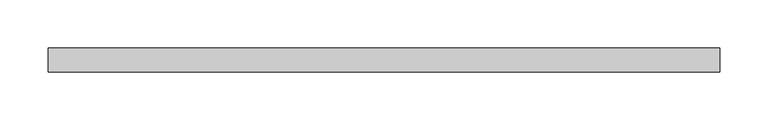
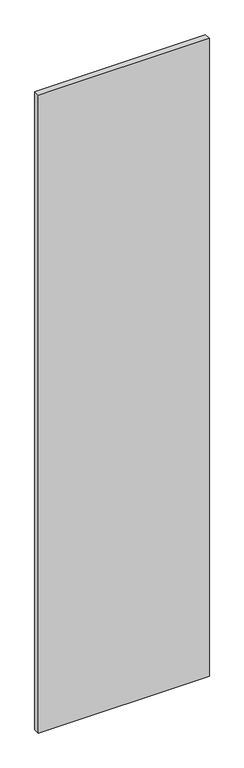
"""IFC4 building model written with IfcOpenShell, lengths in millimetres: plate geometry, 系统嵌板 : 玻璃."""

import ifcopenshell
import ifcopenshell.guid

model = None  # the IFC model being written
_history = None  # IfcOwnerHistory: only IFC2X3 demands one
_inside = {}  # id of a spatial element -> (the spatial element, [elements in it])
_under = {}  # id of a project, library or spatial element -> (it, [spatial elements below it])
_declared = {}  # id of a project -> (the project, [libraries it declares])
_typed = {}  # id of a type object -> (the type object, [elements of that type])
_made_of = {}  # id of a material, layer set ... -> (it, [elements and type objects made of it])


def new_model(schema):
    """Start an empty IFC model of exactly this schema.

    Asked for "IFC4X3", IfcOpenShell would pick the latest addendum, in which some entities
    have other attributes; the version numbers below select the first issue.
    IFC2X3 requires an IfcOwnerHistory on every rooted entity: one is made here for all.
    """
    global model, _history
    if schema == "IFC4X3":
        model = ifcopenshell.file(schema_version=(4, 3, 0, 0))
    else:
        model = ifcopenshell.file(schema=schema)
    _inside.clear()
    _under.clear()
    _declared.clear()
    _typed.clear()
    _made_of.clear()
    _history = None
    if model.schema == "IFC2X3":
        org = make("IfcOrganization", Name="unknown")
        user = make(
            "IfcPersonAndOrganization",
            ThePerson=make("IfcPerson", FamilyName="unknown"),
            TheOrganization=org,
        )
        app = make(
            "IfcApplication",
            ApplicationDeveloper=org,
            Version="unknown",
            ApplicationFullName="unknown",
            ApplicationIdentifier="unknown",
        )
        _history = make(
            "IfcOwnerHistory",
            OwningUser=user,
            OwningApplication=app,
            ChangeAction="ADDED",
            CreationDate=0,
        )
    return model


def make(cls, **values):
    """One entity of the class cls with the attributes given. An attribute that is None is left unset."""
    return model.create_entity(
        cls, **{name: value for name, value in values.items() if value is not None}
    )


def rooted(cls, **values):
    """An entity with a GlobalId (a new one), such as an element, a storey or a relation."""
    return make(cls, GlobalId=ifcopenshell.guid.new(), OwnerHistory=_history, **values)


def si_unit(unit_type, name, prefix=None):
    """IfcSIUnit, for example si_unit("LENGTHUNIT", "METRE", prefix="MILLI")."""
    return make("IfcSIUnit", UnitType=unit_type, Prefix=prefix, Name=name)


def assignment(units):
    """IfcUnitAssignment: the units of a project."""
    return None if units is None else make("IfcUnitAssignment", Units=units)


def point(xyz):
    """IfcCartesianPoint."""
    return None if xyz is None else make("IfcCartesianPoint", Coordinates=xyz)


def direction(xyz):
    """IfcDirection."""
    return None if xyz is None else make("IfcDirection", DirectionRatios=xyz)


def frame(location, z_axis=None, x_axis=None):
    """IfcAxis2Placement3D, a coordinate frame: its origin and axes. An axis left out is left unset."""
    return make(
        "IfcAxis2Placement3D",
        Location=point(location),
        Axis=direction(z_axis),
        RefDirection=direction(x_axis),
    )


def origin():
    """The frame at (0, 0, 0) with its axes left unset."""
    return frame((0.0, 0.0, 0.0))


def origin_with_axes():
    """The frame at (0, 0, 0) with the z axis (0, 0, 1) and the x axis (1, 0, 0) written out."""
    return frame((0.0, 0.0, 0.0), z_axis=(0.0, 0.0, 1.0), x_axis=(1.0, 0.0, 0.0))


def place(relative_to, where):
    """IfcLocalPlacement: puts the frame where relative to a parent placement (None: the world)."""
    return make(
        "IfcLocalPlacement", PlacementRelTo=relative_to, RelativePlacement=where
    )


def context(
    kind, dimensions, precision=None, world=None, true_north=None, identifier=None
):
    """IfcGeometricRepresentationContext, for example the 3D "Model" context."""
    return make(
        "IfcGeometricRepresentationContext",
        ContextIdentifier=identifier,
        ContextType=kind,
        CoordinateSpaceDimension=dimensions,
        Precision=precision,
        WorldCoordinateSystem=world,
        TrueNorth=true_north,
    )


def project(units=None, contexts=None):
    """IfcProject with its units and contexts."""
    return rooted(
        "IfcProject",
        Name="project",
        RepresentationContexts=contexts,
        UnitsInContext=assignment(units),
    )


def spatial(cls, under=None, at=None, **own):
    """A site, building, storey or space (cls), placed at a placement, below another one or the project."""
    s = rooted(cls, ObjectPlacement=at, **own)
    if under is not None:
        _under.setdefault(under.id(), (under, []))[1].append(s)
    return s


def polyline(points):
    """IfcPolyline through the points."""
    return make("IfcPolyline", Points=[point(p) for p in points])


def outline(outer, holes=None, kind="AREA"):
    """IfcArbitraryClosedProfileDef: a profile drawn as a closed curve; with holes, ...WithVoids."""
    if holes is None:
        return make("IfcArbitraryClosedProfileDef", ProfileType=kind, OuterCurve=outer)
    return make(
        "IfcArbitraryProfileDefWithVoids",
        ProfileType=kind,
        OuterCurve=outer,
        InnerCurves=holes,
    )


def extrude(swept, where, along, depth):
    """IfcExtrudedAreaSolid: the profile swept, set in the frame where, extruded along a direction by depth."""
    return make(
        "IfcExtrudedAreaSolid",
        SweptArea=swept,
        Position=where,
        ExtrudedDirection=direction(along),
        Depth=depth,
    )


def shape(context_of_items, identifier, shape_type, items):
    """IfcShapeRepresentation: the items that make up one representation, for example the "Body"."""
    return make(
        "IfcShapeRepresentation",
        ContextOfItems=context_of_items,
        RepresentationIdentifier=identifier,
        RepresentationType=shape_type,
        Items=items,
    )


def source(mapping_origin, context_of_items, identifier, shape_type, items):
    """IfcRepresentationMap: a shape defined once, which mapped items show again and again."""
    return make(
        "IfcRepresentationMap",
        MappingOrigin=mapping_origin,
        MappedRepresentation=shape(context_of_items, identifier, shape_type, items),
    )


def transform(
    local_origin,
    x_axis=None,
    y_axis=None,
    z_axis=None,
    scale=None,
    scale2=None,
    scale3=None,
    uniform=True,
):
    """IfcCartesianTransformationOperator3D, or its non-uniform kind. x_axis, y_axis, z_axis: its Axis1, 2, 3."""
    if uniform:
        return make(
            "IfcCartesianTransformationOperator3D",
            Axis1=direction(x_axis),
            Axis2=direction(y_axis),
            LocalOrigin=point(local_origin),
            Scale=scale,
            Axis3=direction(z_axis),
        )
    return make(
        "IfcCartesianTransformationOperator3DnonUniform",
        Axis1=direction(x_axis),
        Axis2=direction(y_axis),
        LocalOrigin=point(local_origin),
        Scale=scale,
        Axis3=direction(z_axis),
        Scale2=scale2,
        Scale3=scale3,
    )


def mapped(mapping_source, mapping_target):
    """IfcMappedItem: shows the shape of a source again, moved by a transform."""
    return make(
        "IfcMappedItem", MappingSource=mapping_source, MappingTarget=mapping_target
    )


def made_of(thing, what):
    """Note that an element or type object is made of a material, layer set ...; save() writes the relation."""
    if what is not None:
        _made_of.setdefault(what.id(), (what, []))[1].append(thing)
    return thing


def element(
    cls,
    number,
    at=None,
    inside=None,
    cuts=None,
    type_object=None,
    material=None,
    context=None,
    identifier="Body",
    shape_type=None,
    held_by="IfcProductDefinitionShape",
    body=None,
    shapes=None,
    **own,
):
    """One element of the class cls, such as IfcWall. Its Tag is "e" and its number.

    at: its placement. inside: the storey or other place that contains it. cuts: it is an
    opening in that element (IfcRelVoidsElement). A single representation is given by context,
    identifier, shape_type and body (its items); several are given by shapes. held_by: the class
    of the entity that holds the representations. save() writes the other relations.
    """
    e = rooted(cls, Tag="e%d" % number, ObjectPlacement=at, **own)
    if body is not None:
        shapes = [shape(context, identifier, shape_type, body)]
    if shapes is not None:
        e.Representation = make(held_by, Representations=shapes)
    if inside is not None:
        _inside.setdefault(inside.id(), (inside, []))[1].append(e)
    if cuts is not None:
        rooted(
            "IfcRelVoidsElement", RelatingBuildingElement=cuts, RelatedOpeningElement=e
        )
    if type_object is not None:
        _typed.setdefault(type_object.id(), (type_object, []))[1].append(e)
    return made_of(e, material)


def aggregate(whole, parts):
    """IfcRelAggregates: a whole, such as a stair, and the parts it consists of."""
    return rooted("IfcRelAggregates", RelatingObject=whole, RelatedObjects=parts)


def save(model, path):
    """Write the relations noted so far, then the file.

    IfcRelAggregates (storeys below a building ...), IfcRelContainedInSpatialStructure (elements
    in a storey), IfcRelDefinesByType, IfcRelAssociatesMaterial and IfcRelDeclares: one each for
    every whole, place, type object, material and project.
    """
    for whole, parts in _under.values():
        aggregate(whole, parts)
    for where, things in _inside.values():
        rooted(
            "IfcRelContainedInSpatialStructure",
            RelatedElements=things,
            RelatingStructure=where,
        )
    for kind, things in _typed.values():
        rooted("IfcRelDefinesByType", RelatedObjects=things, RelatingType=kind)
    for what, things in _made_of.values():
        rooted("IfcRelAssociatesMaterial", RelatedObjects=things, RelatingMaterial=what)
    for by, libraries in _declared.values():
        rooted("IfcRelDeclares", RelatingContext=by, RelatedDefinitions=libraries)
    model.write(path)


def plate_a8f68738(model_context):
    return source(origin(), model_context, "Body", "SweptSolid", [
        extrude(outline(polyline([(347.5, -12.5), (-347.5, -12.5), (-347.5, 12.5), (347.5, 12.5), (347.5, -12.5)])), origin_with_axes(), (0.0, 0.0, 1.0), 2740.0),
    ])


if __name__ == "__main__":
    model = new_model("IFC4")
    model_context = context("Model", 3, world=origin())
    ifc_project = project(units=[si_unit("LENGTHUNIT", "METRE", prefix="MILLI")], contexts=[model_context])
    site = spatial("IfcSite", under=ifc_project)
    building = spatial("IfcBuilding", under=site)
    placement = place(None, origin())
    plate_shape = plate_a8f68738(model_context)
    element("IfcPlate", 1, ObjectType="系统嵌板 : 玻璃", at=placement, inside=building, context=model_context, shape_type="MappedRepresentation", body=[
        mapped(plate_shape, transform((0.0, 0.0, 0.0), x_axis=(1.0, 0.0, 0.0), y_axis=(0.0, 1.0, 0.0), z_axis=(0.0, 0.0, 1.0))),
    ])
    save(model, "model.ifc")
